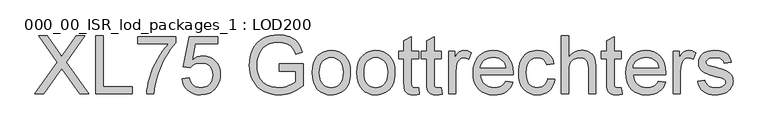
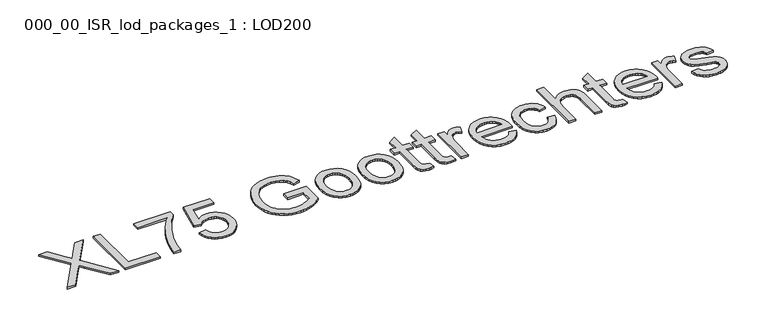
"""IFC4 building model written with IfcOpenShell, lengths in millimetres: proxy geometry, 000_00_ISR_lod_packages_1 : LOD200."""

from ifc_helpers import new_model, si_unit, origin, origin_with_axes, place, context, project, spatial, polyline, outline, extrude, source, transform, mapped, element, save


def proxy_000_00_isr_lod_packages_1_lod200_dfd39657(model_context):
    return source(origin(), model_context, "Body", "SweptSolid", [
        extrude(outline(polyline([(500.0, 500.0), (808.1627819, 935.6043884), (549.9617936, 1299.3886983), (669.7920331, 1299.3886983), (815.1886591, 1094.6624423), (849.878928, 1042.7978069), (864.1746365, 1014.8406705), (921.5526339, 1096.0285851), (1065.3879539, 1299.3886983), (1186.9746626, 1299.3886983), (928.7736744, 934.4334088), (1236.9364563, 500.0), (1117.1062168, 500.0), (911.7944711, 789.6222725), (869.0537179, 849.7325555), (822.0193731, 783.7673749), (621.5867088, 500.0), (500.0, 500.0)])), origin_with_axes(), (0.0, 0.0, 1.0), 25.0),
        extrude(outline(polyline([(1336.8600436, 500.0), (1336.8600436, 1299.3886983), (1436.7836309, 1299.3886983), (1436.7836309, 599.9235873), (1836.47798, 599.9235873), (1836.47798, 500.0), (1336.8600436, 500.0)])), origin_with_axes(), (0.0, 0.0, 1.0), 25.0),
        extrude(outline(polyline([(1911.4206705, 1186.9746626), (1911.4206705, 1286.8982499), (2436.0195038, 1286.8982499), (2436.0195038, 1206.1006618), (2398.5420597, 1161.9998647), (2361.2475812, 1111.4708778), (2324.1360682, 1054.5137012), (2287.2075208, 991.1283348), (2252.4623623, 924.059262), (2221.9010161, 856.050966), (2195.5234822, 787.1034468), (2173.3297606, 717.2167044), (2149.5198434, 613.3410612), (2136.2487419, 500.0), (2036.3251546, 500.0), (2039.4660633, 549.0713613), (2047.13232, 602.9974086), (2059.3239246, 661.7781419), (2076.0408773, 725.4135612), (2097.0880147, 790.8847349), (2122.2701737, 855.1727313), (2151.5873541, 918.2775505), (2185.039556, 980.1991924), (2221.1203631, 1039.1201993), (2258.3233588, 1093.2231133), (2296.6485433, 1142.5079344), (2336.0959165, 1186.9746626), (1911.4206705, 1186.9746626)])), origin_with_axes(), (0.0, 0.0, 1.0), 25.0),
        extrude(outline(polyline([(2523.4526427, 712.337623), (2623.37623, 724.8280714), (2630.8412245, 692.7054192), (2641.7215761, 664.8397655), (2656.0172846, 641.2311103), (2673.7283501, 621.8794536), (2694.8181795, 606.8091909), (2719.2501797, 596.0447176), (2747.0243506, 589.5860336), (2778.1406923, 587.4331389), (2816.1975273, 590.4276751), (2849.7656074, 599.4112837), (2878.8449326, 614.3839648), (2903.4355029, 635.3457183), (2922.9884217, 661.2597395), (2936.9547922, 691.0892235), (2945.3346146, 724.8341703), (2948.1278887, 762.4945799), (2945.5114813, 798.0874788), (2937.662259, 829.7283217), (2924.580222, 857.4171087), (2906.2653702, 881.1538398), (2882.656715, 900.194455), (2853.693268, 913.7948944), (2819.3750291, 921.9551581), (2779.7019984, 924.675246), (2731.2283246, 920.3328635), (2691.9761146, 907.3057162), (2660.6280165, 887.3502732), (2635.8666784, 862.2230039), (2535.9430911, 874.7134523), (2623.37623, 1286.8982499), (3010.5801307, 1286.8982499), (3010.5801307, 1186.9746626), (2704.1738181, 1186.9746626), (2661.433065, 966.8305094), (2696.6966259, 992.1041511), (2732.814026, 1010.1567523), (2769.7852654, 1020.988313), (2807.610344, 1024.5988333), (2856.2730823, 1020.1222761), (2900.9715668, 1006.6926045), (2941.7057978, 984.3098185), (2978.475775, 952.9739182), (3008.9151442, 914.5999429), (3030.6575507, 871.1029321), (3043.7029947, 822.4828858), (3048.051476, 768.7398041), (3044.1360131, 716.9727503), (3032.3896246, 668.8162168), (3012.8123105, 624.2702035), (2985.4040707, 583.3347105), (2965.5096162, 560.8756889), (2943.8830878, 541.4112035), (2920.5244856, 524.9412543), (2895.4338094, 511.4658413), (2868.6110594, 500.9849646), (2840.0562354, 493.498624), (2777.7503658, 487.5095516), (2726.1845741, 491.3579271), (2679.6076432, 502.9030534), (2638.0195731, 522.1449308), (2601.4203636, 549.083559), (2570.9687968, 582.3771908), (2547.8236543, 620.6840787), (2531.9849363, 664.0042228), (2523.4526427, 712.337623)])), origin_with_axes(), (0.0, 0.0, 1.0), 25.0),
        extrude(outline(polyline([(3859.9306227, 812.2612103), (3859.9306227, 912.1847976), (4184.6822814, 912.1847976), (4184.6822814, 613.389852), (4145.533752, 584.0055842), (4105.7631396, 558.5001861), (4065.3704444, 536.8736578), (4024.3556663, 519.1259991), (3982.7675961, 505.2938033), (3940.6550247, 495.4136635), (3898.017952, 489.4855796), (3854.8563781, 487.5095516), (3797.4600841, 490.6504602), (3742.7594826, 500.0731862), (3690.7545737, 515.7777295), (3641.4453571, 537.7640901), (3596.4236334, 565.70293), (3557.2812028, 599.2649113), (3524.0180653, 638.4500339), (3496.6342209, 683.2582978), (3475.2455477, 732.2564729), (3459.9679241, 784.0113289), (3450.8013499, 838.522866), (3447.7458251, 895.791084), (3450.7891522, 953.065401), (3459.9191333, 1008.3758876), (3475.1357684, 1061.722544), (3496.4390576, 1113.1053701), (3523.4508721, 1160.2677908), (3555.793083, 1200.9532309), (3593.4656903, 1235.1616904), (3636.4686941, 1262.8931694), (3683.86897, 1284.3245345), (3734.7333937, 1299.6326524), (3789.0619652, 1308.8175232), (3846.8546845, 1311.8791468), (3889.046541, 1310.1043809), (3929.1647879, 1304.7800833), (3967.2094252, 1295.906254), (4003.1804529, 1283.4828929), (4036.2301306, 1267.8942278), (4065.510718, 1249.5244863), (4091.0222149, 1228.3736684), (4112.7646214, 1204.4417741), (4131.4332067, 1177.1860056), (4147.7232397, 1146.063565), (4161.6347206, 1111.0744524), (4173.1676493, 1072.2186679), (4081.0505923, 1046.2619548), (4060.4852641, 1098.9316386), (4035.4799719, 1138.6717567), (4020.4036103, 1154.4799804), (4002.3997999, 1168.6293165), (3957.6098326, 1191.9513257), (3904.2082865, 1206.954501), (3845.2933785, 1211.9555595), (3776.3275627, 1206.5641745), (3745.5954487, 1199.8249433), (3717.3638639, 1190.3900196), (3668.6218406, 1165.4579136), (3630.3210515, 1133.7926753), (3600.924586, 1097.0287968), (3578.8955335, 1056.8007706), (3565.2341055, 1019.8417289), (3555.4759427, 981.370172), (3549.621045, 941.3860998), (3547.6694124, 899.8895124), (3550.0174704, 849.9948062), (3557.0616441, 804.332703), (3568.8019338, 762.903203), (3585.2383393, 725.7063061), (3606.1574008, 692.8822859), (3631.3456586, 664.571416), (3660.8031126, 640.7736964), (3694.5297629, 621.4891271), (3730.9460068, 606.5896323), (3768.4722417, 595.9471359), (3807.1084676, 589.5616381), (3846.8546845, 587.4331389), (3881.6730293, 589.0371369), (3916.0644543, 593.8491309), (3950.0289598, 601.869121), (3983.5665457, 613.0971071), (4042.1887088, 639.6149146), (4084.7586941, 667.8404005), (4084.7586941, 812.2612103), (3859.9306227, 812.2612103)])), origin_with_axes(), (0.0, 0.0, 1.0), 25.0),
        extrude(outline(polyline([(4309.5867655, 793.5255377), (4314.9903482, 869.5538238), (4321.7448265, 903.6250591), (4331.2010962, 935.0676894), (4343.3591572, 963.8817146), (4358.2190095, 990.0671346), (4375.7806532, 1013.6239495), (4396.0440881, 1034.5521594), (4434.1253185, 1062.9850063), (4476.1586049, 1083.2941827), (4522.1439472, 1095.4796885), (4572.0813454, 1099.5415238), (4627.2088665, 1094.595355), (4677.054782, 1079.7568486), (4721.6190918, 1055.0260047), (4760.901796, 1020.4028233), (4792.9634598, 977.0582838), (4815.8646481, 926.1633658), (4829.6053611, 867.7180694), (4834.1855988, 801.7223944), (4832.16078, 748.2354645), (4826.0863237, 700.7742001), (4815.9622298, 659.3386012), (4801.7884983, 623.9286678), (4783.7419959, 593.3429262), (4761.9995894, 566.3799026), (4736.5612786, 543.0395969), (4707.4270638, 523.3220091), (4675.7313312, 507.654059), (4642.6084672, 496.462666), (4608.058472, 489.7478302), (4572.0813454, 487.5095516), (4516.1487759, 492.4374238), (4465.8393477, 507.2210405), (4421.1530608, 531.8604016), (4382.0899153, 566.3555072), (4350.3697873, 610.1208674), (4327.712553, 662.5709926), (4314.1182124, 723.7058827), (4309.5867655, 793.5255377)]), holes=[polyline([(4409.5103528, 793.7207009), (4412.4012086, 745.253126), (4421.0737758, 703.286927), (4435.5280545, 667.822104), (4455.7640446, 638.858657), (4480.3790103, 616.3599928), (4507.9702157, 600.2895184), (4538.5376607, 590.6472338), (4572.0813454, 587.4331389), (4605.4542623, 590.6655303), (4635.8997303, 600.3627046), (4663.4177494, 616.5246618), (4688.0083198, 639.1514018), (4708.2443099, 668.4014949), (4722.6985886, 704.4335111), (4731.3711558, 747.2474505), (4734.2620115, 796.843313), (4731.3528592, 843.7739774), (4722.6254024, 884.642383), (4708.0796409, 919.44853), (4687.7155749, 948.1924184), (4663.0335218, 970.6910825), (4635.5337992, 986.7615569), (4605.2164071, 996.4038416), (4572.0813454, 999.6179365), (4538.5376607, 996.4160393), (4507.9702157, 986.8103478), (4480.3790103, 970.8008619), (4455.7640446, 948.3875817), (4435.5280545, 919.5095186), (4421.0737758, 884.1056841), (4412.4012086, 842.1760782), (4409.5103528, 793.7207009)])]), origin_with_axes(), (0.0, 0.0, 1.0), 25.0),
        extrude(outline(polyline([(4921.6187377, 793.5255377), (4927.0223204, 869.5538238), (4933.7767987, 903.6250591), (4943.2330684, 935.0676894), (4955.3911293, 963.8817146), (4970.2509817, 990.0671346), (4987.8126253, 1013.6239495), (5008.0760603, 1034.5521594), (5046.1572907, 1062.9850063), (5088.1905771, 1083.2941827), (5134.1759194, 1095.4796885), (5184.1133176, 1099.5415238), (5239.2408387, 1094.595355), (5289.0867542, 1079.7568486), (5333.651064, 1055.0260047), (5372.9337682, 1020.4028233), (5404.9954319, 977.0582838), (5427.8966203, 926.1633658), (5441.6373333, 867.7180694), (5446.217571, 801.7223944), (5444.1927522, 748.2354645), (5438.1182958, 700.7742001), (5427.9942019, 659.3386012), (5413.8204704, 623.9286678), (5395.7739681, 593.3429262), (5374.0315615, 566.3799026), (5348.5932508, 543.0395969), (5319.4590359, 523.3220091), (5287.7633033, 507.654059), (5254.6404394, 496.462666), (5220.0904442, 489.7478302), (5184.1133176, 487.5095516), (5128.1807481, 492.4374238), (5077.8713199, 507.2210405), (5033.185033, 531.8604016), (4994.1218875, 566.3555072), (4962.4017594, 610.1208674), (4939.7445251, 662.5709926), (4926.1501846, 723.7058827), (4921.6187377, 793.5255377)]), holes=[polyline([(5021.542325, 793.7207009), (5024.4331807, 745.253126), (5033.1057479, 703.286927), (5047.5600266, 667.822104), (5067.7960168, 638.858657), (5092.4109825, 616.3599928), (5120.0021879, 600.2895184), (5150.5696329, 590.6472338), (5184.1133176, 587.4331389), (5217.4862345, 590.6655303), (5247.9317025, 600.3627046), (5275.4497216, 616.5246618), (5300.0402919, 639.1514018), (5320.2762821, 668.4014949), (5334.7305608, 704.4335111), (5343.403128, 747.2474505), (5346.2939837, 796.843313), (5343.3848314, 843.7739774), (5334.6573745, 884.642383), (5320.1116131, 919.44853), (5299.747547, 948.1924184), (5275.065494, 970.6910825), (5247.5657714, 986.7615569), (5217.2483792, 996.4038416), (5184.1133176, 999.6179365), (5150.5696329, 996.4160393), (5120.0021879, 986.8103478), (5092.4109825, 970.8008619), (5067.7960168, 948.3875817), (5047.5600266, 919.5095186), (5033.1057479, 884.1056841), (5024.4331807, 842.1760782), (5021.542325, 793.7207009)])]), origin_with_axes(), (0.0, 0.0, 1.0), 25.0),
        extrude(outline(polyline([(5770.9692297, 583.3347105), (5783.4596781, 497.0725512), (5743.8903279, 489.9003015), (5708.7121509, 487.5095516), (5660.7507806, 491.6567708), (5624.9871139, 504.0984284), (5599.7134722, 523.2732183), (5583.222177, 547.6198346), (5574.1470856, 589.4335623), (5571.1220551, 661.0096866), (5571.1220551, 987.1274881), (5496.1793646, 987.1274881), (5496.1793646, 1087.0510753), (5571.1220551, 1087.0510753), (5571.1220551, 1229.7154158), (5671.0456424, 1288.459556), (5671.0456424, 1087.0510753), (5770.9692297, 1087.0510753), (5770.9692297, 987.1274881), (5671.0456424, 987.1274881), (5671.0456424, 663.9371354), (5672.3629944, 631.0521267), (5676.3150503, 612.4140357), (5683.2189505, 602.0947785), (5693.3918353, 594.1662712), (5707.8095208, 589.116422), (5727.4478235, 587.4331389), (5770.9692297, 583.3347105)])), origin_with_axes(), (0.0, 0.0, 1.0), 25.0),
        extrude(outline(polyline([(6083.23044, 583.3347105), (6095.7208884, 497.0725512), (6056.1515382, 489.9003015), (6020.9733612, 487.5095516), (5973.0119909, 491.6567708), (5937.2483242, 504.0984284), (5911.9746825, 523.2732183), (5895.4833873, 547.6198346), (5886.4082959, 589.4335623), (5883.3832654, 661.0096866), (5883.3832654, 987.1274881), (5808.4405749, 987.1274881), (5808.4405749, 1087.0510753), (5883.3832654, 1087.0510753), (5883.3832654, 1229.7154158), (5983.3068527, 1288.459556), (5983.3068527, 1087.0510753), (6083.23044, 1087.0510753), (6083.23044, 987.1274881), (5983.3068527, 987.1274881), (5983.3068527, 663.9371354), (5984.6242047, 631.0521267), (5988.5762606, 612.4140357), (5995.4801608, 602.0947785), (6005.6530456, 594.1662712), (6020.0707311, 589.116422), (6039.7090338, 587.4331389), (6083.23044, 583.3347105)])), origin_with_axes(), (0.0, 0.0, 1.0), 25.0),
        extrude(outline(polyline([(6183.1540273, 500.0), (6183.1540273, 1087.0510753), (6270.5871662, 1087.0510753), (6270.5871662, 1000.2034262), (6302.8866851, 1050.5555464), (6318.0850237, 1067.973867), (6332.6490817, 1080.2203614), (6362.5090599, 1094.7112332), (6395.1013238, 1099.5415238), (6419.8870573, 1097.6142866), (6444.8679541, 1091.8325751), (6470.0440142, 1082.1963893), (6495.4152376, 1068.7057292), (6462.0423207, 979.1257945), (6426.9129346, 994.494901), (6391.7835484, 999.6179365), (6361.9479656, 994.6900642), (6335.2837857, 979.9064476), (6313.7426412, 956.3892752), (6299.2761649, 925.2607358), (6287.1272521, 869.4440444), (6283.0776146, 808.5531084), (6283.0776146, 500.0), (6183.1540273, 500.0)])), origin_with_axes(), (0.0, 0.0, 1.0), 25.0),
        extrude(outline(polyline([(6968.8812977, 674.8662778), (7066.8532524, 662.3758294), (7051.8317805, 623.1358171), (7031.5530984, 588.5553276), (7006.0172061, 558.6343609), (6975.2241035, 533.3729168), (6939.490931, 513.3076945), (6899.1348289, 498.9753929), (6854.1557971, 490.3760119), (6804.5538358, 487.5095516), (6742.5529087, 492.4557204), (6687.3095095, 507.2942267), (6638.8236379, 532.0250706), (6597.0952942, 566.6482521), (6563.5394118, 610.2001525), (6539.5709243, 661.7171534), (6525.1898319, 721.1992546), (6520.3961344, 788.6464563), (6525.2386227, 858.3807273), (6539.7660876, 919.8449554), (6563.9785291, 973.0391405), (6579.7166161, 996.5349669), (6597.8759472, 1017.9632826), (6639.4945116, 1053.6537631), (6686.8703921, 1079.1469635), (6740.0035887, 1094.4428837), (6798.8941013, 1099.5415238), (6855.887871, 1094.4550814), (6907.4292673, 1079.1957543), (6953.5182901, 1053.7635424), (6994.1549394, 1018.1584458), (7027.3265941, 973.3318854), (7051.0206332, 920.2352819), (7065.2370567, 858.8686355), (7069.9758645, 789.231946), (7069.3903747, 762.2994166), (6620.3197217, 762.2994166), (6626.107532, 722.4251238), (6637.6160653, 687.5030986), (6654.8453215, 657.5333411), (6677.7953007, 632.5158511), (6705.1974417, 612.7921645), (6735.7831833, 598.7038169), (6769.5525255, 590.2508084), (6806.5054683, 587.4331389), (6859.6874557, 592.653756), (6904.477423, 608.3156073), (6923.7253992, 620.3059499), (6940.8753704, 635.3945091), (6955.9273365, 653.5812851), (6968.8812977, 674.8662778)]), holes=[polyline([(6620.3197217, 862.2230039), (6970.0522772, 862.2230039), (6964.917044, 890.4972807), (6956.5372217, 915.0146648), (6944.9128102, 935.7751562), (6930.0438096, 952.7787549), (6902.79414, 973.2708968), (6871.7875776, 987.9081411), (6837.0241225, 996.6904876), (6798.5037748, 999.6179365), (6763.3682898, 997.2820762), (6731.1480559, 990.2744956), (6701.8430732, 978.5951944), (6675.4533416, 962.2441729), (6653.3084109, 941.9776884), (6636.7378306, 918.5519988), (6625.7416009, 891.967104), (6620.3197217, 862.2230039)])]), origin_with_axes(), (0.0, 0.0, 1.0), 25.0),
        extrude(outline(polyline([(7544.6129041, 712.337623), (7644.5364914, 699.8471746), (7633.6683376, 652.6969516), (7616.6769366, 610.9747067), (7593.5622884, 574.6804398), (7564.324393, 543.8141511), (7530.1952186, 519.1808888), (7492.406733, 501.5857015), (7450.9589365, 491.0285891), (7405.8518288, 487.5095516), (7349.80948, 492.4191273), (7299.5610403, 507.1478543), (7255.1065098, 531.6957326), (7216.4458885, 566.0627623), (7185.1526801, 609.602465), (7162.8003883, 661.6683625), (7149.3890133, 722.2604548), (7144.918555, 791.3787419), (7146.8274956, 837.3213922), (7152.5543174, 880.3000006), (7162.0990204, 920.314567), (7175.4616046, 957.3650914), (7192.7335528, 990.707514), (7214.0063477, 1019.5977748), (7239.2799895, 1044.0358739), (7268.5544779, 1064.0218111), (7300.5063623, 1079.5616854), (7333.8121918, 1090.6615956), (7368.4719664, 1097.3215417), (7404.485686, 1099.5415238), (7448.8182395, 1096.4920979), (7488.9181898, 1087.3438202), (7524.7855371, 1072.0966908), (7556.4202812, 1050.7507096), (7583.2857232, 1023.7937849), (7604.8451642, 991.7138246), (7621.0986041, 954.5108288), (7632.046043, 912.1847976), (7532.1224557, 899.6943492), (7524.3220243, 923.0346549), (7513.9966683, 943.2889416), (7501.1463876, 960.4572093), (7485.7711823, 974.539458), (7468.2613789, 985.5112923), (7449.0073039, 993.3483169), (7428.0089573, 998.0505316), (7405.266339, 999.6179365), (7371.3140313, 996.5319175), (7340.6916966, 987.2738605), (7313.3993349, 971.8437655), (7289.4369464, 950.2416326), (7269.9267196, 921.9673558), (7255.9908433, 886.5208294), (7247.6293175, 843.9020532), (7244.8421423, 794.1110274), (7247.568329, 743.5698429), (7255.7468892, 700.4570598), (7269.3778229, 664.7726781), (7288.4611301, 636.5166979), (7311.9478082, 615.0426408), (7338.7888548, 599.7040286), (7368.9842699, 590.5008613), (7402.5340535, 587.4331389), (7429.5702633, 589.3481783), (7454.2767118, 595.0932967), (7476.6533989, 604.668494), (7496.7003247, 618.0737701), (7513.8563947, 635.4554977), (7527.5605146, 656.960049), (7537.8126844, 682.5874241), (7544.6129041, 712.337623)])), origin_with_axes(), (0.0, 0.0, 1.0), 25.0),
        extrude(outline(polyline([(7731.9696303, 500.0), (7731.9696303, 1299.3886983), (7831.8932176, 1299.3886983), (7831.8932176, 1005.4728342), (7868.5961075, 1046.6278859), (7909.8121477, 1076.0243514), (7955.5413383, 1093.6622307), (8005.7836791, 1099.5415238), (8037.0219978, 1097.9375257), (8066.1379161, 1093.1255317), (8093.131434, 1085.1055416), (8118.0025515, 1073.8775555), (8140.116988, 1059.8197022), (8158.8404629, 1043.3101105), (8174.1729763, 1024.3487804), (8186.114528, 1002.9357118), (8195.0798401, 977.747454), (8201.4836345, 947.4605562), (8206.60667, 871.5908402), (8206.60667, 500.0), (8106.6830827, 500.0), (8106.6830827, 861.2471877), (8104.694857, 894.9860356), (8098.73018, 923.7970113), (8088.7890516, 947.6801148), (8074.8714719, 966.6353461), (8057.3067788, 981.0652294), (8036.4243103, 991.3722889), (8012.2240665, 997.5565246), (7984.7060474, 999.6179365), (7942.4775978, 994.0557837), (7902.8350613, 977.3693252), (7885.0386119, 965.2570056), (7869.9988434, 951.1686581), (7857.715756, 935.1042825), (7848.1893495, 917.063879), (7835.9672506, 871.7372127), (7831.8932176, 811.8708838), (7831.8932176, 500.0), (7731.9696303, 500.0)])), origin_with_axes(), (0.0, 0.0, 1.0), 25.0),
        extrude(outline(polyline([(8556.3392255, 583.3347105), (8568.8296739, 497.0725512), (8529.2603236, 489.9003015), (8494.0821467, 487.5095516), (8446.1207764, 491.6567708), (8410.3571097, 504.0984284), (8385.083468, 523.2732183), (8368.5921728, 547.6198346), (8359.5170814, 589.4335623), (8356.4920509, 661.0096866), (8356.4920509, 987.1274881), (8281.5493604, 987.1274881), (8281.5493604, 1087.0510753), (8356.4920509, 1087.0510753), (8356.4920509, 1229.7154158), (8456.4156382, 1288.459556), (8456.4156382, 1087.0510753), (8556.3392255, 1087.0510753), (8556.3392255, 987.1274881), (8456.4156382, 987.1274881), (8456.4156382, 663.9371354), (8457.7329902, 631.0521267), (8461.6850461, 612.4140357), (8468.5889463, 602.0947785), (8478.761831, 594.1662712), (8493.1795166, 589.116422), (8512.8178193, 587.4331389), (8556.3392255, 583.3347105)])), origin_with_axes(), (0.0, 0.0, 1.0), 25.0),
        extrude(outline(polyline([(9067.2766308, 674.8662778), (9165.2485855, 662.3758294), (9150.2271137, 623.1358171), (9129.9484315, 588.5553276), (9104.4125392, 558.6343609), (9073.6194366, 533.3729168), (9037.8862642, 513.3076945), (8997.530162, 498.9753929), (8952.5511303, 490.3760119), (8902.9491689, 487.5095516), (8840.9482419, 492.4557204), (8785.7048426, 507.2942267), (8737.2189711, 532.0250706), (8695.4906273, 566.6482521), (8661.9347449, 610.2001525), (8637.9662575, 661.7171534), (8623.585165, 721.1992546), (8618.7914675, 788.6464563), (8623.6339558, 858.3807273), (8638.1614207, 919.8449554), (8662.3738622, 973.0391405), (8678.1119492, 996.5349669), (8696.2712803, 1017.9632826), (8737.8898448, 1053.6537631), (8785.2657253, 1079.1469635), (8838.3989218, 1094.4428837), (8897.2894345, 1099.5415238), (8954.2832042, 1094.4550814), (9005.8246004, 1079.1957543), (9051.9136232, 1053.7635424), (9092.5502725, 1018.1584458), (9125.7219273, 973.3318854), (9149.4159664, 920.2352819), (9163.6323898, 858.8686355), (9168.3711976, 789.231946), (9167.7857079, 762.2994166), (8718.7150548, 762.2994166), (8724.5028652, 722.4251238), (8736.0113984, 687.5030986), (8753.2406547, 657.5333411), (8776.1906338, 632.5158511), (8803.5927748, 612.7921645), (8834.1785164, 598.7038169), (8867.9478586, 590.2508084), (8904.9008015, 587.4331389), (8958.0827888, 592.653756), (9002.8727562, 608.3156073), (9022.1207324, 620.3059499), (9039.2707035, 635.3945091), (9054.3226697, 653.5812851), (9067.2766308, 674.8662778)]), holes=[polyline([(8718.7150548, 862.2230039), (9068.4476104, 862.2230039), (9063.3123772, 890.4972807), (9054.9325548, 915.0146648), (9043.3081434, 935.7751562), (9028.4391428, 952.7787549), (9001.1894731, 973.2708968), (8970.1829107, 987.9081411), (8935.4194557, 996.6904876), (8896.899108, 999.6179365), (8861.7636229, 997.2820762), (8829.5433891, 990.2744956), (8800.2384064, 978.5951944), (8773.8486748, 962.2441729), (8751.703744, 941.9776884), (8735.1331638, 918.5519988), (8724.136934, 891.967104), (8718.7150548, 862.2230039)])]), origin_with_axes(), (0.0, 0.0, 1.0), 25.0),
        extrude(outline(polyline([(9268.2947849, 500.0), (9268.2947849, 1087.0510753), (9355.7279238, 1087.0510753), (9355.7279238, 1000.2034262), (9388.0274428, 1050.5555464), (9403.2257814, 1067.973867), (9417.7898394, 1080.2203614), (9447.6498176, 1094.7112332), (9480.2420814, 1099.5415238), (9505.027815, 1097.6142866), (9530.0087118, 1091.8325751), (9555.1847719, 1082.1963893), (9580.5559952, 1068.7057292), (9547.1830784, 979.1257945), (9512.0536922, 994.494901), (9476.9243061, 999.6179365), (9447.0887232, 994.6900642), (9420.4245433, 979.9064476), (9398.8833989, 956.3892752), (9384.4169225, 925.2607358), (9372.2680098, 869.4440444), (9368.2183722, 808.5531084), (9368.2183722, 500.0), (9268.2947849, 500.0)])), origin_with_axes(), (0.0, 0.0, 1.0), 25.0),
        extrude(outline(polyline([(9605.5368921, 674.8662778), (9705.4604793, 687.3567262), (9711.4983426, 664.571416), (9721.2199123, 644.615973), (9734.6251885, 627.4903973), (9751.7141711, 613.1946887), (9772.535651, 601.9240107), (9797.1384191, 593.8735263), (9825.5224752, 589.0432357), (9857.6878194, 587.4331389), (9889.8165705, 588.909061), (9917.5053575, 593.3368274), (9940.7541804, 600.716438), (9959.5630392, 611.0478929), (9974.0783064, 623.3675735), (9984.4463544, 636.7118611), (9990.6671832, 651.0807559), (9992.7407928, 666.4742577), (9990.6549855, 679.9649178), (9984.3975636, 691.9430627), (9973.9685271, 702.4086923), (9959.367876, 711.3618067), (9921.9453215, 724.0474184), (9856.5168398, 739.8556422), (9765.3268083, 766.2270772), (9706.0459691, 788.7440379), (9667.9647387, 813.3102128), (9652.8578829, 828.5756388), (9640.3735333, 845.8292904), (9623.6138887, 884.2276611), (9618.0273405, 926.4317153), (9622.5160954, 965.1472263), (9635.9823601, 1000.8864976), (9657.2063642, 1032.2345957), (9684.9683374, 1057.7765869), (9712.5595428, 1073.8531601), (9748.4939774, 1087.3438202), (9790.0393556, 1096.4920979), (9834.4633918, 1099.5415238), (9899.5015471, 1094.6380469), (9956.0501006, 1079.9276165), (10001.5231394, 1056.8495614), (10019.1366232, 1042.712423), (10033.3347501, 1026.8432107), (10054.4123818, 987.6885824), (10067.6834833, 937.1656944), (9967.759896, 924.675246), (9962.9966928, 941.3678033), (9955.1474705, 956.1209257), (9944.2122293, 968.9346132), (9930.1909691, 979.8088659), (9913.0227014, 988.4753343), (9892.6464377, 994.6656688), (9842.2699221, 999.6179365), (9784.8919247, 994.8852275), (9763.3751757, 988.9693413), (9746.6399265, 980.6871006), (9725.1231774, 960.1949587), (9719.7439902, 948.7779082), (9717.9509278, 936.5802046), (9720.9271674, 921.2110982), (9729.8558864, 907.5008794), (9745.1274112, 895.2543851), (9767.1320684, 885.4474315), (9853.1990645, 864.1746365), (9941.4860426, 838.071551), (9999.8642517, 817.1402917), (10038.6041581, 794.6477264), (10067.9762282, 763.8607227), (10078.7772946, 745.332411), (10086.4923421, 724.681699), (10091.1213706, 701.9085865), (10092.6643801, 677.0130736), (10090.8530211, 652.0077814), (10085.4189442, 627.7343513), (10076.3621493, 604.1927835), (10063.6826365, 581.3830779), (10047.5877667, 560.2139635), (10028.2849009, 541.594169), (10005.774039, 525.5236946), (9980.0551811, 512.0025403), (9951.8296952, 501.2868577), (9921.7989491, 493.6327988), (9889.9629429, 489.0403634), (9856.3216766, 487.5095516), (9802.5420017, 490.4613958), (9755.5686454, 499.3169286), (9715.4016077, 514.0761499), (9682.0408886, 534.7390596), (9654.7912189, 561.2080763), (9632.9573296, 593.3856182), (9616.5392206, 631.2716854), (9605.5368921, 674.8662778)])), origin_with_axes(), (0.0, 0.0, 1.0), 25.0),
    ])


if __name__ == "__main__":
    model = new_model("IFC4")
    model_context = context("Model", 3, world=origin())
    ifc_project = project(units=[si_unit("LENGTHUNIT", "METRE", prefix="MILLI")], contexts=[model_context])
    site = spatial("IfcSite", under=ifc_project)
    building = spatial("IfcBuilding", under=site)
    placement = place(None, origin())
    proxy_000_00_isr_lod_packages_1_lod200_shape = proxy_000_00_isr_lod_packages_1_lod200_dfd39657(model_context)
    element("IfcBuildingElementProxy", 1, Name="000_00_ISR_lod_packages_1 : LOD200", ObjectType="000_00_ISR_lod_packages_1 : LOD200", at=placement, inside=building, context=model_context, shape_type="MappedRepresentation", body=[
        mapped(proxy_000_00_isr_lod_packages_1_lod200_shape, transform((0.0, 0.0, 0.0), x_axis=(1.0, 0.0, 0.0), y_axis=(0.0, 1.0, 0.0), z_axis=(0.0, 0.0, 1.0))),
    ])
    save(model, "model.ifc")
